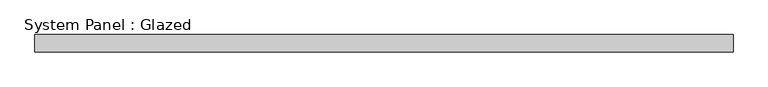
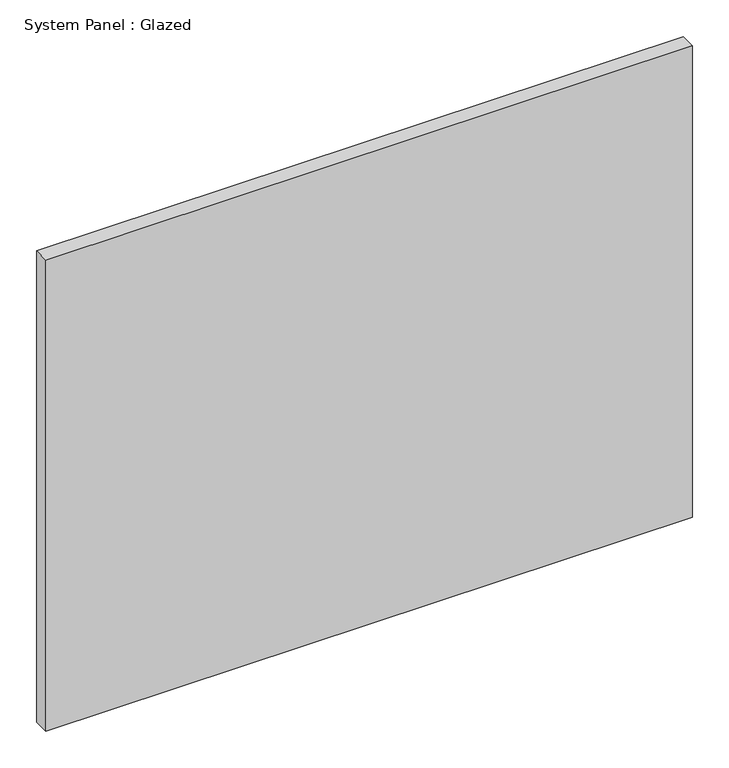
"""IFC4 building model written with IfcOpenShell, lengths in millimetres: plate geometry, System Panel : Glazed."""

import ifcopenshell
import ifcopenshell.guid

model = None  # the IFC model being written
_history = None  # IfcOwnerHistory: only IFC2X3 demands one
_inside = {}  # id of a spatial element -> (the spatial element, [elements in it])
_under = {}  # id of a project, library or spatial element -> (it, [spatial elements below it])
_declared = {}  # id of a project -> (the project, [libraries it declares])
_typed = {}  # id of a type object -> (the type object, [elements of that type])
_made_of = {}  # id of a material, layer set ... -> (it, [elements and type objects made of it])


def new_model(schema):
    """Start an empty IFC model of exactly this schema.

    Asked for "IFC4X3", IfcOpenShell would pick the latest addendum, in which some entities
    have other attributes; the version numbers below select the first issue.
    IFC2X3 requires an IfcOwnerHistory on every rooted entity: one is made here for all.
    """
    global model, _history
    if schema == "IFC4X3":
        model = ifcopenshell.file(schema_version=(4, 3, 0, 0))
    else:
        model = ifcopenshell.file(schema=schema)
    _inside.clear()
    _under.clear()
    _declared.clear()
    _typed.clear()
    _made_of.clear()
    _history = None
    if model.schema == "IFC2X3":
        org = make("IfcOrganization", Name="unknown")
        user = make(
            "IfcPersonAndOrganization",
            ThePerson=make("IfcPerson", FamilyName="unknown"),
            TheOrganization=org,
        )
        app = make(
            "IfcApplication",
            ApplicationDeveloper=org,
            Version="unknown",
            ApplicationFullName="unknown",
            ApplicationIdentifier="unknown",
        )
        _history = make(
            "IfcOwnerHistory",
            OwningUser=user,
            OwningApplication=app,
            ChangeAction="ADDED",
            CreationDate=0,
        )
    return model


def make(cls, **values):
    """One entity of the class cls with the attributes given. An attribute that is None is left unset."""
    return model.create_entity(
        cls, **{name: value for name, value in values.items() if value is not None}
    )


def rooted(cls, **values):
    """An entity with a GlobalId (a new one), such as an element, a storey or a relation."""
    return make(cls, GlobalId=ifcopenshell.guid.new(), OwnerHistory=_history, **values)


def si_unit(unit_type, name, prefix=None):
    """IfcSIUnit, for example si_unit("LENGTHUNIT", "METRE", prefix="MILLI")."""
    return make("IfcSIUnit", UnitType=unit_type, Prefix=prefix, Name=name)


def assignment(units):
    """IfcUnitAssignment: the units of a project."""
    return None if units is None else make("IfcUnitAssignment", Units=units)


def point(xyz):
    """IfcCartesianPoint."""
    return None if xyz is None else make("IfcCartesianPoint", Coordinates=xyz)


def direction(xyz):
    """IfcDirection."""
    return None if xyz is None else make("IfcDirection", DirectionRatios=xyz)


def frame(location, z_axis=None, x_axis=None):
    """IfcAxis2Placement3D, a coordinate frame: its origin and axes. An axis left out is left unset."""
    return make(
        "IfcAxis2Placement3D",
        Location=point(location),
        Axis=direction(z_axis),
        RefDirection=direction(x_axis),
    )


def origin():
    """The frame at (0, 0, 0) with its axes left unset."""
    return frame((0.0, 0.0, 0.0))


def origin_with_axes():
    """The frame at (0, 0, 0) with the z axis (0, 0, 1) and the x axis (1, 0, 0) written out."""
    return frame((0.0, 0.0, 0.0), z_axis=(0.0, 0.0, 1.0), x_axis=(1.0, 0.0, 0.0))


def place(relative_to, where):
    """IfcLocalPlacement: puts the frame where relative to a parent placement (None: the world)."""
    return make(
        "IfcLocalPlacement", PlacementRelTo=relative_to, RelativePlacement=where
    )


def context(
    kind, dimensions, precision=None, world=None, true_north=None, identifier=None
):
    """IfcGeometricRepresentationContext, for example the 3D "Model" context."""
    return make(
        "IfcGeometricRepresentationContext",
        ContextIdentifier=identifier,
        ContextType=kind,
        CoordinateSpaceDimension=dimensions,
        Precision=precision,
        WorldCoordinateSystem=world,
        TrueNorth=true_north,
    )


def project(units=None, contexts=None):
    """IfcProject with its units and contexts."""
    return rooted(
        "IfcProject",
        Name="project",
        RepresentationContexts=contexts,
        UnitsInContext=assignment(units),
    )


def spatial(cls, under=None, at=None, **own):
    """A site, building, storey or space (cls), placed at a placement, below another one or the project."""
    s = rooted(cls, ObjectPlacement=at, **own)
    if under is not None:
        _under.setdefault(under.id(), (under, []))[1].append(s)
    return s


def polyline(points):
    """IfcPolyline through the points."""
    return make("IfcPolyline", Points=[point(p) for p in points])


def outline(outer, holes=None, kind="AREA"):
    """IfcArbitraryClosedProfileDef: a profile drawn as a closed curve; with holes, ...WithVoids."""
    if holes is None:
        return make("IfcArbitraryClosedProfileDef", ProfileType=kind, OuterCurve=outer)
    return make(
        "IfcArbitraryProfileDefWithVoids",
        ProfileType=kind,
        OuterCurve=outer,
        InnerCurves=holes,
    )


def extrude(swept, where, along, depth):
    """IfcExtrudedAreaSolid: the profile swept, set in the frame where, extruded along a direction by depth."""
    return make(
        "IfcExtrudedAreaSolid",
        SweptArea=swept,
        Position=where,
        ExtrudedDirection=direction(along),
        Depth=depth,
    )


def shape(context_of_items, identifier, shape_type, items):
    """IfcShapeRepresentation: the items that make up one representation, for example the "Body"."""
    return make(
        "IfcShapeRepresentation",
        ContextOfItems=context_of_items,
        RepresentationIdentifier=identifier,
        RepresentationType=shape_type,
        Items=items,
    )


def source(mapping_origin, context_of_items, identifier, shape_type, items):
    """IfcRepresentationMap: a shape defined once, which mapped items show again and again."""
    return make(
        "IfcRepresentationMap",
        MappingOrigin=mapping_origin,
        MappedRepresentation=shape(context_of_items, identifier, shape_type, items),
    )


def transform(
    local_origin,
    x_axis=None,
    y_axis=None,
    z_axis=None,
    scale=None,
    scale2=None,
    scale3=None,
    uniform=True,
):
    """IfcCartesianTransformationOperator3D, or its non-uniform kind. x_axis, y_axis, z_axis: its Axis1, 2, 3."""
    if uniform:
        return make(
            "IfcCartesianTransformationOperator3D",
            Axis1=direction(x_axis),
            Axis2=direction(y_axis),
            LocalOrigin=point(local_origin),
            Scale=scale,
            Axis3=direction(z_axis),
        )
    return make(
        "IfcCartesianTransformationOperator3DnonUniform",
        Axis1=direction(x_axis),
        Axis2=direction(y_axis),
        LocalOrigin=point(local_origin),
        Scale=scale,
        Axis3=direction(z_axis),
        Scale2=scale2,
        Scale3=scale3,
    )


def mapped(mapping_source, mapping_target):
    """IfcMappedItem: shows the shape of a source again, moved by a transform."""
    return make(
        "IfcMappedItem", MappingSource=mapping_source, MappingTarget=mapping_target
    )


def made_of(thing, what):
    """Note that an element or type object is made of a material, layer set ...; save() writes the relation."""
    if what is not None:
        _made_of.setdefault(what.id(), (what, []))[1].append(thing)
    return thing


def element(
    cls,
    number,
    at=None,
    inside=None,
    cuts=None,
    type_object=None,
    material=None,
    context=None,
    identifier="Body",
    shape_type=None,
    held_by="IfcProductDefinitionShape",
    body=None,
    shapes=None,
    **own,
):
    """One element of the class cls, such as IfcWall. Its Tag is "e" and its number.

    at: its placement. inside: the storey or other place that contains it. cuts: it is an
    opening in that element (IfcRelVoidsElement). A single representation is given by context,
    identifier, shape_type and body (its items); several are given by shapes. held_by: the class
    of the entity that holds the representations. save() writes the other relations.
    """
    e = rooted(cls, Tag="e%d" % number, ObjectPlacement=at, **own)
    if body is not None:
        shapes = [shape(context, identifier, shape_type, body)]
    if shapes is not None:
        e.Representation = make(held_by, Representations=shapes)
    if inside is not None:
        _inside.setdefault(inside.id(), (inside, []))[1].append(e)
    if cuts is not None:
        rooted(
            "IfcRelVoidsElement", RelatingBuildingElement=cuts, RelatedOpeningElement=e
        )
    if type_object is not None:
        _typed.setdefault(type_object.id(), (type_object, []))[1].append(e)
    return made_of(e, material)


def aggregate(whole, parts):
    """IfcRelAggregates: a whole, such as a stair, and the parts it consists of."""
    return rooted("IfcRelAggregates", RelatingObject=whole, RelatedObjects=parts)


def save(model, path):
    """Write the relations noted so far, then the file.

    IfcRelAggregates (storeys below a building ...), IfcRelContainedInSpatialStructure (elements
    in a storey), IfcRelDefinesByType, IfcRelAssociatesMaterial and IfcRelDeclares: one each for
    every whole, place, type object, material and project.
    """
    for whole, parts in _under.values():
        aggregate(whole, parts)
    for where, things in _inside.values():
        rooted(
            "IfcRelContainedInSpatialStructure",
            RelatedElements=things,
            RelatingStructure=where,
        )
    for kind, things in _typed.values():
        rooted("IfcRelDefinesByType", RelatedObjects=things, RelatingType=kind)
    for what, things in _made_of.values():
        rooted("IfcRelAssociatesMaterial", RelatedObjects=things, RelatingMaterial=what)
    for by, libraries in _declared.values():
        rooted("IfcRelDeclares", RelatingContext=by, RelatedDefinitions=libraries)
    model.write(path)


def system_panel_glazed_5f627d4c(model_context):
    return source(origin(), model_context, "Body", "SweptSolid", [
        extrude(outline(polyline([(511.1724693, -44.45), (-511.1724693, -44.45), (-511.1724693, -19.05), (511.1724693, -19.05), (511.1724693, -44.45)])), origin_with_axes(), (0.0, 0.0, 1.0), 787.4),
    ])


if __name__ == "__main__":
    model = new_model("IFC4")
    model_context = context("Model", 3, world=origin())
    ifc_project = project(units=[si_unit("LENGTHUNIT", "METRE", prefix="MILLI")], contexts=[model_context])
    site = spatial("IfcSite", under=ifc_project)
    building = spatial("IfcBuilding", under=site)
    placement = place(None, origin())
    system_panel_glazed_shape = system_panel_glazed_5f627d4c(model_context)
    element("IfcPlate", 1, ObjectType="System Panel : Glazed", at=placement, inside=building, context=model_context, shape_type="MappedRepresentation", body=[
        mapped(system_panel_glazed_shape, transform((0.0, 0.0, 0.0), x_axis=(1.0, 0.0, 0.0), y_axis=(0.0, 1.0, 0.0), z_axis=(0.0, 0.0, 1.0))),
    ])
    save(model, "model.ifc")
